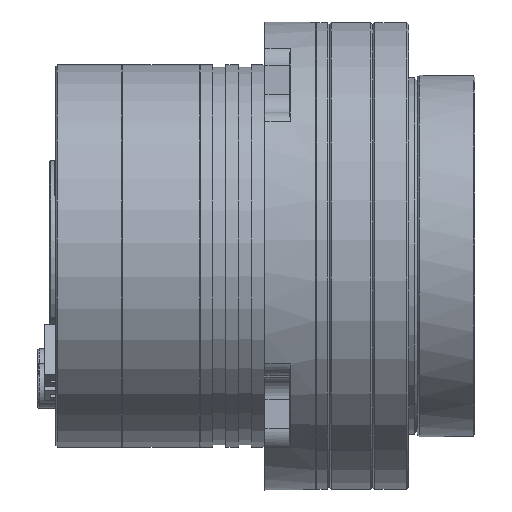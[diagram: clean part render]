
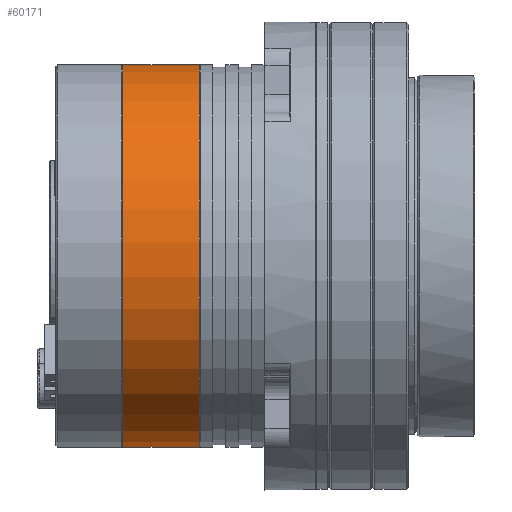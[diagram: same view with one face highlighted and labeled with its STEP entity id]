
A CAD part, front view. The second image highlights one B-rep face of the part: STEP entity #60171.
In plain terms, the highlighted cylindrical face has radius 45 mm (diameter 90 mm), a full revolution.
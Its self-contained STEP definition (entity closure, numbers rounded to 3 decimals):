
#60132=CARTESIAN_POINT('',(-66.2,-44.899,3.021));
#60133=VERTEX_POINT('',#60132);
#60134=CARTESIAN_POINT('',(-66.2,0.,0.));
#60135=DIRECTION('',(0.,-0.998,0.067));
#60136=DIRECTION('',(-1.,0.,0.));
#60137=AXIS2_PLACEMENT_3D('',#60134,#60136,#60135);
#60138=CIRCLE('',#60137,45.);
#60139=EDGE_CURVE('',#60133,#60133,#60138,.T.);
#60147=CARTESIAN_POINT('',(-66.2,0.,0.));
#60148=DIRECTION('',(0.,-0.998,0.067));
#60149=DIRECTION('',(1.,0.,0.));
#60150=AXIS2_PLACEMENT_3D('',#60147,#60149,#60148);
#60151=CYLINDRICAL_SURFACE('',#60150,45.);
#60152=CARTESIAN_POINT('',(-48.2,-44.899,3.021));
#60153=VERTEX_POINT('',#60152);
#60154=CARTESIAN_POINT('',(-66.2,-44.899,3.021));
#60155=DIRECTION('',(1.,0.,0.));
#60156=VECTOR('',#60155,18.);
#60157=LINE('',#60154,#60156);
#60158=EDGE_CURVE('',#60133,#60153,#60157,.T.);
#60159=ORIENTED_EDGE('',*,*,#60158,.T.);
#60160=CARTESIAN_POINT('',(-48.2,0.,0.));
#60161=DIRECTION('',(0.,-0.998,0.067));
#60162=DIRECTION('',(1.,0.,0.));
#60163=AXIS2_PLACEMENT_3D('',#60160,#60162,#60161);
#60164=CIRCLE('',#60163,45.);
#60165=EDGE_CURVE('',#60153,#60153,#60164,.T.);
#60166=ORIENTED_EDGE('',*,*,#60165,.F.);
#60167=ORIENTED_EDGE('',*,*,#60158,.F.);
#60168=ORIENTED_EDGE('',*,*,#60139,.F.);
#60169=EDGE_LOOP('',(#60159,#60166,#60167,#60168));
#60170=FACE_OUTER_BOUND('',#60169,.T.);
#60171=ADVANCED_FACE('',(#60170),#60151,.T.);
